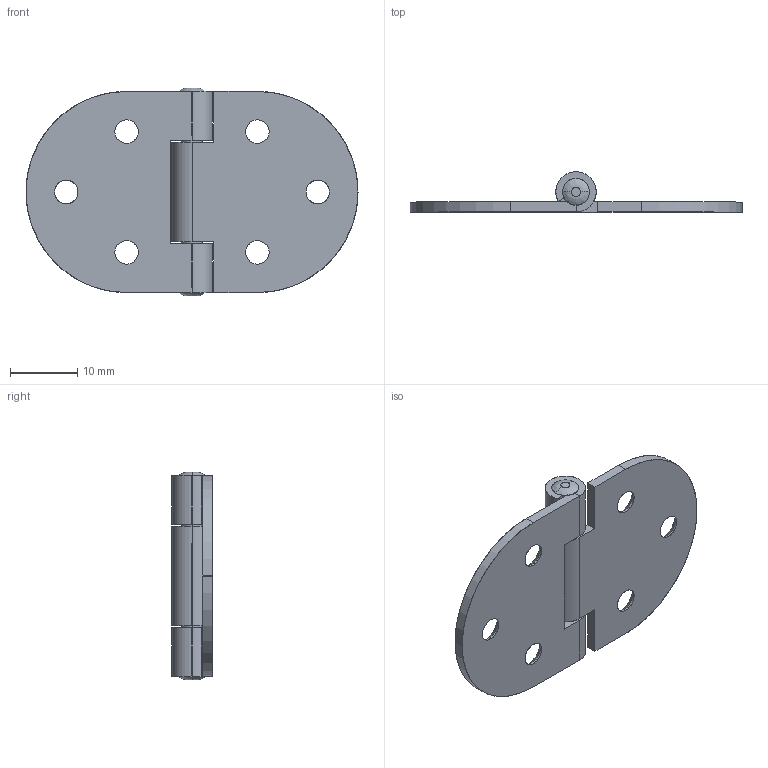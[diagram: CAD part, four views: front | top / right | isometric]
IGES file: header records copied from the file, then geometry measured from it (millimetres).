
Start section: SolidWorks IGES file using analytic representation for surfaces
Global section: file name: C:\Users\cbrechard\Desktop\27394.IGS; native system: SolidWorks 2017; preprocessor: SolidWorks 2017; author: cbrechard; date: 220321.143534; units: millimetre
Bounding box: 49.5 x 6 x 31 mm (x, y, z)
Surface area: 3747.2 mm2 (no closed solid volume)
Topology: 0 solids, 0 shells, 80 faces, 1288 edges, 1288 vertices
Faces by surface type: revolution 48, bspline 32
